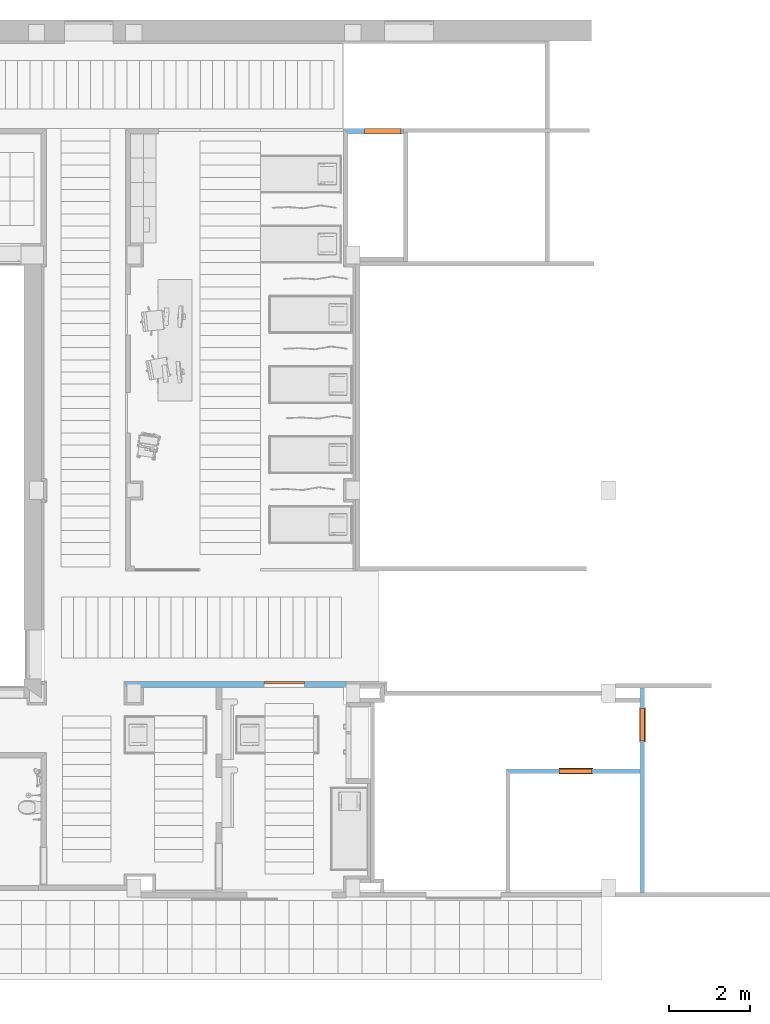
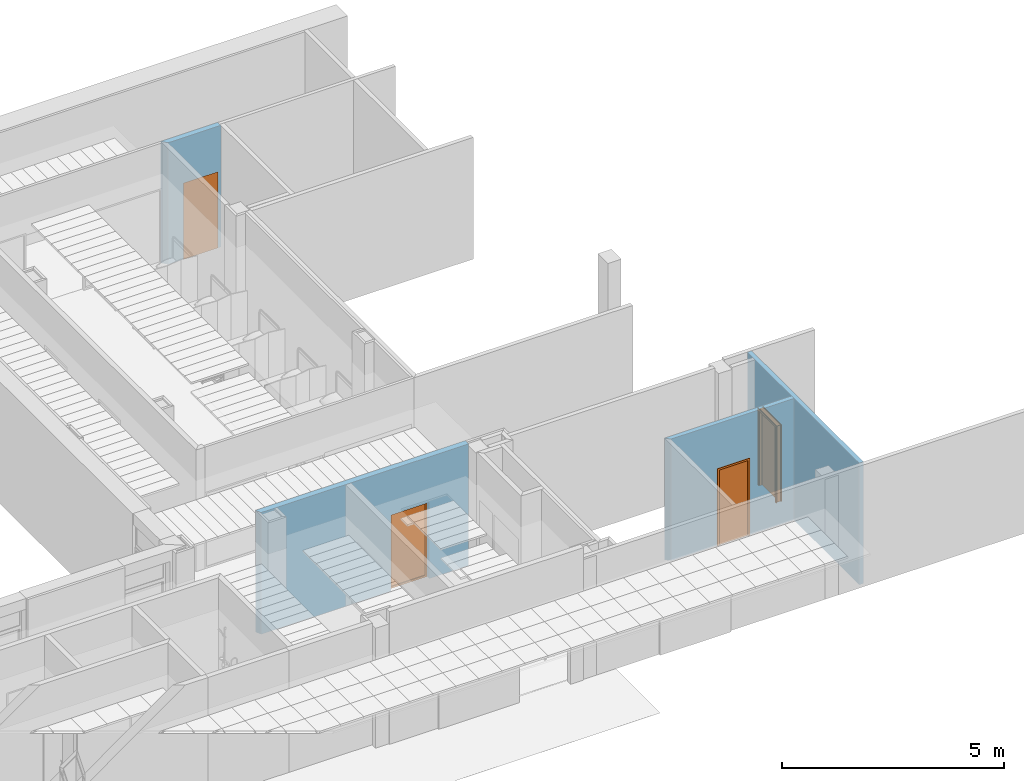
# One storey, part 59 of 68: 4 proxies, 4 openings, plus 4 elements that do not belong to this part.
"""IFC2X3 building model written with IfcOpenShell, lengths in millimetres."""

from ifc_helpers import new_model, entity, si_unit, converted_unit, derived_unit, money_unit, direction, frame, origin_with_axes, origin_2d_with_axis, place, context, subcontext, project, spatial, polyline, rectangle, outline, extrude, open_shell, faceted_brep, surface_model, material, layer, layer_set, layer_usage, type_object, element, fill, save


model = new_model("IFC2X3")

# Units and contexts
model_context = context("Model", 3, precision=0.01, world=origin_with_axes(), true_north=direction((0.0, 1.0)))
body_context = subcontext(model_context, "Body", "Model", "MODEL_VIEW")
ifc_project = project(units=[si_unit("LENGTHUNIT", "METRE", prefix="MILLI"), si_unit("AREAUNIT", "SQUARE_METRE"), si_unit("VOLUMEUNIT", "CUBIC_METRE"), converted_unit("PLANEANGLEUNIT", "DEGREE", entity("IfcPlaneAngleMeasure", 0.0174532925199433), si_unit("PLANEANGLEUNIT", "RADIAN"), dimensions=[0, 0, 0, 0, 0, 0, 0]), money_unit("USD"), converted_unit("TIMEUNIT", "Year", entity("IfcTimeMeasure", 31557600.0), si_unit("TIMEUNIT", "SECOND"), dimensions=[0, 0, 1, 0, 0, 0, 0]), si_unit("MASSUNIT", "GRAM", prefix="KILO"), si_unit("THERMODYNAMICTEMPERATUREUNIT", "DEGREE_CELSIUS"), si_unit("LUMINOUSINTENSITYUNIT", "LUMEN"), si_unit("ENERGYUNIT", "JOULE", prefix="MEGA"), derived_unit("THERMALCONDUCTANCEUNIT", [(si_unit("POWERUNIT", "WATT"), 1), (si_unit("LENGTHUNIT", "METRE"), -1), (si_unit("THERMODYNAMICTEMPERATUREUNIT", "KELVIN"), -1)]), derived_unit("SPECIFICHEATCAPACITYUNIT", [(si_unit("ENERGYUNIT", "JOULE"), 1), (si_unit("MASSUNIT", "GRAM", prefix="KILO"), -1), (si_unit("THERMODYNAMICTEMPERATUREUNIT", "KELVIN"), -1)]), derived_unit("MASSDENSITYUNIT", [(si_unit("MASSUNIT", "GRAM", prefix="KILO"), 1), (si_unit("VOLUMEUNIT", "CUBIC_METRE"), -1)])], contexts=[model_context])

# Site, building, storey
site_placement = place(None, origin_with_axes())
site = spatial("IfcSite", under=ifc_project, at=site_placement, Name="Sitio", CompositionType="ELEMENT")
building_placement = place(site_placement, origin_with_axes())
building = spatial("IfcBuilding", under=site, at=building_placement, Name="Construcción", CompositionType="ELEMENT")
storey_placement = place(building_placement, origin_with_axes())
storey = spatial("IfcBuildingStorey", under=building, at=storey_placement, Name="PLANTA 1ª", CompositionType="ELEMENT", Elevation=0.0)

# Wall, opening, proxy
ifc_material_1 = material(Name="Panel de Yeso Laminado")
ifc_layer_1 = layer(ifc_material_1, 13.0, ventilated="UNKNOWN")
ifc_layer_2 = layer(ifc_material_1, 13.0, ventilated="UNKNOWN")
ifc_material_2 = material(Name="ARQ_AI033_Aillament_Llana_De_Roca")
ifc_layer_3 = layer(ifc_material_2, 70.0, ventilated="UNKNOWN")
ifc_layer_4 = layer(ifc_material_1, 13.0, ventilated="UNKNOWN")
ifc_layer_5 = layer(ifc_material_1, 13.0, ventilated="UNKNOWN")
ifc_material_3 = material(Name="ARQ_EN271_Camara_Aire")
ifc_layer_6 = layer(ifc_material_3, 6.0, ventilated="UNKNOWN")
ifc_material_4 = material(Name="ARQ_FU093_Panellat_HPL")
ifc_layer_7 = layer(ifc_material_4, 6.0, ventilated="UNKNOWN")
ifc_layer_set_1 = layer_set([ifc_layer_1, ifc_layer_2, ifc_layer_3, ifc_layer_4, ifc_layer_5, ifc_layer_6, ifc_layer_7], Name="CR Pladur 70 HPL 1 cara")
ifc_layer_usage_1 = layer_usage(ifc_layer_set_1, "AXIS2", "POSITIVE", -134.0)
wall_type_1 = type_object("IfcWallType", Name="CR Pladur 70 HPL 1 cara 134", PredefinedType="NOTDEFINED")
wall_1_placement = place(storey_placement, frame((5763.890995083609, 1700.853055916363, 0.0), z_axis=(0.0, 0.0, 1.0), x_axis=(1.0, 0.0, 0.0)))
wall_1 = element("IfcWallStandardCase", 1, at=wall_1_placement, inside=storey, type_object=wall_type_1, material=ifc_layer_usage_1, Name="MS-212", context=body_context, shape_type="SweptSolid", body=[
    extrude(outline(polyline([(121.9999999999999, -133.9999999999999), (1490.000000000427, -133.9999999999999), (1490.000000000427, 0.0), (0.0, 0.0), (121.9999999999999, -133.9999999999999)])), origin_with_axes(), (0.0, 0.0, 1.0), 3350.0),
])
opening_1_placement = place(wall_1_placement, frame((973.4203323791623, 0.0, 0.0), z_axis=(0.0, 0.0, 1.0), x_axis=(1.0, 0.0, 0.0)))
opening_1 = element("IfcOpeningElement", 2, at=opening_1_placement, cuts=wall_1, Name="P-02", context=body_context, shape_type="SweptSolid", body=[
    extrude(rectangle(XDim=900.0000000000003, YDim=2100.0, at=origin_2d_with_axis()), frame((0.0, -133.9999999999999, 1050.0), z_axis=(0.0, -1.0, 0.0), x_axis=(1.0, 0.0, 0.0)), (0.0, 0.0, -1.0), 402.0),
])
building_element_proxy_type_1 = type_object("IfcBuildingElementProxyType", Name="Puerta Metal 27", PredefinedType="NOTDEFINED")
proxy_1_placement = place(opening_1_placement, frame((450.0000000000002, 0.0, 0.0), z_axis=(0.0, 0.0, 1.0), x_axis=(-1.0, 0.0, 0.0)))
proxy_1 = element("IfcBuildingElementProxy", 3, at=proxy_1_placement, inside=storey, type_object=building_element_proxy_type_1, Name="P-02", context=body_context, shape_type="Brep", body=[
    faceted_brep([(868.0000000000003, 93.99999999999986, 0.0), (868.0000000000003, 0.0, 0.0), (868.0000000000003, 0.0, 2068.0), (868.0000000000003, 93.99999999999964, 2068.0), (879.9999999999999, 93.99999999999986, 0.0), (879.9999999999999, 133.9999999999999, 0.0), (900.0000000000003, 133.9999999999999, 0.0), (900.0000000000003, 0.0, 0.0), (900.0000000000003, 0.0, 2068.0), (879.9999999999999, 93.99999999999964, 2068.0), (900.0000000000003, 133.9999999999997, 2068.0), (879.9999999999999, 133.9999999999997, 2068.0)], [[[0, 1, 2, 3]], [[4, 5, 6, 7, 1, 0]], [[1, 7, 8, 2]], [[9, 3, 2, 8, 10, 11]], [[9, 4, 0, 3]], [[11, 5, 4, 9]], [[11, 10, 6, 5]], [[6, 10, 8, 7]]]),
    faceted_brep([(20.00000000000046, 93.99999999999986, 2068.0), (20.00000000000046, 133.9999999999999, 2068.0), (0.0, 133.9999999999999, 2068.0), (0.0, 0.0, 2068.0), (32.00000000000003, 0.0, 2068.0), (32.00000000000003, 93.99999999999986, 2068.0), (20.00000000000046, 93.99999999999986, 0.0), (20.00000000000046, 133.9999999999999, 0.0), (0.0, 133.9999999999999, 0.0), (0.0, 0.0, 0.0), (32.00000000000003, 0.0, 0.0), (32.00000000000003, 93.99999999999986, 0.0)], [[[0, 1, 2, 3, 4, 5]], [[0, 6, 7, 1]], [[7, 8, 2, 1]], [[2, 8, 9, 3]], [[3, 9, 10, 4]], [[5, 4, 10, 11]], [[5, 11, 6, 0]], [[6, 11, 10, 9, 8, 7]]]),
    faceted_brep([(879.9999999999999, 133.9999999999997, 2080.0), (20.00000000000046, 133.9999999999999, 2080.0), (20.00000000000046, 133.9999999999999, 2068.0), (0.0, 133.9999999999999, 2068.0), (0.0, 133.9999999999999, 2100.0), (900.0000000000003, 133.9999999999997, 2100.0), (900.0000000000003, 133.9999999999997, 2068.0), (879.9999999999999, 133.9999999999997, 2068.0), (879.9999999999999, 93.99999999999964, 2080.0), (20.00000000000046, 93.99999999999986, 2080.0), (20.00000000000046, 93.99999999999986, 2068.0), (32.00000000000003, 93.99999999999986, 2068.0), (32.00000000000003, 0.0, 2068.0), (0.0, 0.0, 2068.0), (0.0, 0.0, 2100.0), (900.0000000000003, 0.0, 2100.0), (900.0000000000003, 0.0, 2068.0), (879.9999999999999, 93.99999999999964, 2068.0), (868.0000000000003, 0.0, 2068.0), (868.0000000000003, 93.99999999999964, 2068.0)], [[[0, 1, 2, 3, 4, 5, 6, 7]], [[0, 8, 9, 1]], [[1, 9, 10, 2]], [[10, 11, 12, 13, 3, 2]], [[4, 3, 13, 14]], [[5, 4, 14, 15]], [[6, 5, 15, 16]], [[17, 7, 6, 16, 18, 19]], [[7, 17, 8, 0]], [[10, 9, 8, 17, 19, 11]], [[19, 18, 12, 11]], [[12, 18, 16, 15, 14, 13]]]),
    faceted_brep([(20.00000000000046, 133.9999999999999, 0.0), (879.9999999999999, 133.9999999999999, 0.0), (879.9999999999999, 93.99999999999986, 0.0), (20.00000000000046, 93.99999999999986, 0.0), (20.00000000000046, 133.9999999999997, 2080.0), (879.9999999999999, 133.9999999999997, 2080.0), (879.9999999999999, 93.99999999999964, 2080.0), (20.00000000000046, 93.99999999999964, 2080.0)], [[[0, 1, 2, 3]], [[0, 4, 5, 1]], [[1, 5, 6, 2]], [[3, 2, 6, 7]], [[4, 0, 3, 7]], [[5, 4, 7, 6]]]),
])
fill(opening_1, proxy_1)

ifc_material_5 = material(Name="ARQ_AM246_Arrebossat_De_Guix")
ifc_layer_8 = layer(ifc_material_5, 10.0, ventilated="UNKNOWN")
ifc_material_6 = material(Name="ARQ_CE217_Gero")
ifc_layer_9 = layer(ifc_material_6, 90.0, ventilated="UNKNOWN")
ifc_layer_10 = layer(ifc_material_5, 10.0, ventilated="UNKNOWN")
ifc_layer_set_2 = layer_set([ifc_layer_8, ifc_layer_9, ifc_layer_10], Name="CR Enva Totxana")
ifc_layer_usage_2 = layer_usage(ifc_layer_set_2, "AXIS2", "POSITIVE", 0.0)
wall_type_2 = type_object("IfcWallType", Name="CR Enva Totxana 110", PredefinedType="NOTDEFINED")
wall_2_placement = place(storey_placement, frame((9768.890995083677, -14188.97582371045, 0.0), z_axis=(0.0, 0.0, 1.0), x_axis=(1.0, 0.0, 0.0)))
wall_2 = element("IfcWallStandardCase", 4, at=wall_2_placement, inside=storey, type_object=wall_type_2, material=ifc_layer_usage_2, Name="MS-206", context=body_context, shape_type="SweptSolid", body=[
    extrude(outline(polyline([(109.9999999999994, 0.0), (3309.999999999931, 0.0), (3309.999999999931, 109.9999999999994), (0.0, 109.9999999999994), (109.9999999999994, 0.0)])), origin_with_axes(), (0.0, 0.0, 1.0), 3350.0),
])
opening_2_placement = place(wall_2_placement, frame((1729.853695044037, 0.0, 0.0), z_axis=(0.0, 0.0, 1.0), x_axis=(1.0, 0.0, 0.0)))
opening_2 = element("IfcOpeningElement", 5, at=opening_2_placement, cuts=wall_2, Name="PF-10D", context=body_context, shape_type="SweptSolid", body=[
    extrude(rectangle(XDim=800.0000000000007, YDim=2100.0, at=origin_2d_with_axis()), frame((0.0, 109.9999999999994, 1050.0), z_axis=(0.0, -1.0, 0.0), x_axis=(-1.0, 0.0, 0.0)), (0.0, 0.0, 1.0), 329.9999999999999),
    extrude(rectangle(XDim=844.0000000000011, YDim=2122.0, at=origin_2d_with_axis()), frame((0.0, 110.0000000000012, 1061.0), z_axis=(0.0, -1.0, 0.0), x_axis=(-1.0, 0.0, 0.0)), (0.0, 0.0, -1.0), 110.0),
    extrude(rectangle(XDim=844.0000000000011, YDim=2122.0, at=origin_2d_with_axis()), frame((0.0, 0.0, 1061.0), z_axis=(0.0, 1.0, 0.0), x_axis=(-1.0, 0.0, 0.0)), (0.0, 0.0, -1.0), 110.0),
])
building_element_proxy_type_2 = type_object("IfcBuildingElementProxyType", Name="Puerta 27", PredefinedType="NOTDEFINED")
proxy_2_placement = place(opening_2_placement, frame((400.0000000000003, 0.0, 0.0), z_axis=(0.0, 0.0, 1.0), x_axis=(-1.0, 0.0, 0.0)))
proxy_2 = element("IfcBuildingElementProxy", 6, at=proxy_2_placement, inside=storey, type_object=building_element_proxy_type_2, Name="PF-10D", context=body_context, shape_type="Brep", body=[
    faceted_brep([(-22.00000000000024, -128.9999999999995, 0.0), (-22.00000000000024, -109.9999999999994, 0.0), (28.00000000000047, -109.9999999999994, 0.0), (28.00000000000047, -128.9999999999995, 0.0), (-22.00000000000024, -128.9999999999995, 2122.0), (-22.00000000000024, -109.9999999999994, 2122.0), (28.00000000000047, -109.9999999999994, 2072.0), (28.00000000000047, -128.9999999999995, 2072.0)], [[[0, 1, 2, 3]], [[4, 5, 1, 0]], [[1, 5, 6, 2]], [[3, 2, 6, 7]], [[0, 3, 7, 4]], [[7, 6, 5, 4]]]),
    faceted_brep([(822.0000000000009, -128.9999999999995, 2122.0), (822.0000000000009, -110.0000000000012, 2122.0), (772.0000000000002, -110.0000000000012, 2072.0), (772.0000000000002, -128.9999999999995, 2072.0), (822.0000000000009, -128.9999999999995, 0.0), (822.0000000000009, -109.9999999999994, 0.0), (772.0000000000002, -109.9999999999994, 0.0), (772.0000000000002, -128.9999999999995, 0.0)], [[[0, 1, 2, 3]], [[4, 5, 1, 0]], [[1, 5, 6, 2]], [[3, 2, 6, 7]], [[0, 3, 7, 4]], [[7, 6, 5, 4]]]),
    faceted_brep([(-22.00000000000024, -128.9999999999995, 2122.0), (-22.00000000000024, -109.9999999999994, 2122.0), (28.00000000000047, -109.9999999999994, 2072.0), (28.00000000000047, -128.9999999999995, 2072.0), (822.0000000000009, -128.9999999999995, 2122.0), (822.0000000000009, -110.0000000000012, 2122.0), (772.0000000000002, -110.0000000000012, 2072.0), (772.0000000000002, -128.9999999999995, 2072.0)], [[[0, 1, 2, 3]], [[4, 5, 1, 0]], [[1, 5, 6, 2]], [[3, 2, 6, 7]], [[0, 3, 7, 4]], [[7, 6, 5, 4]]]),
    faceted_brep([(-22.00000000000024, 19.00000000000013, 0.0), (28.00000000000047, 19.00000000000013, 0.0), (28.00000000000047, 0.0, 0.0), (-22.00000000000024, 0.0, 0.0), (-22.00000000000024, 19.00000000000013, 2122.0), (28.00000000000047, 19.00000000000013, 2072.0), (28.00000000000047, 0.0, 2072.0), (-22.00000000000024, 0.0, 2122.0)], [[[0, 1, 2, 3]], [[0, 4, 5, 1]], [[1, 5, 6, 2]], [[3, 2, 6, 7]], [[4, 0, 3, 7]], [[5, 4, 7, 6]]]),
    faceted_brep([(822.0000000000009, 19.00000000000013, 2122.0), (772.0000000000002, 19.00000000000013, 2072.0), (772.0000000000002, 0.0, 2072.0), (822.0000000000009, 0.0, 2122.0), (822.0000000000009, 19.00000000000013, 0.0), (772.0000000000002, 19.00000000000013, 0.0), (772.0000000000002, 0.0, 0.0), (822.0000000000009, 0.0, 0.0)], [[[0, 1, 2, 3]], [[0, 4, 5, 1]], [[1, 5, 6, 2]], [[3, 2, 6, 7]], [[4, 0, 3, 7]], [[5, 4, 7, 6]]]),
    faceted_brep([(-22.00000000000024, 19.00000000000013, 2122.0), (28.00000000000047, 19.00000000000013, 2072.0), (28.00000000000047, 0.0, 2072.0), (-22.00000000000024, 0.0, 2122.0), (822.0000000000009, 19.00000000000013, 2122.0), (772.0000000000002, 19.00000000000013, 2072.0), (772.0000000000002, 0.0, 2072.0), (822.0000000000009, 0.0, 2122.0)], [[[0, 1, 2, 3]], [[0, 4, 5, 1]], [[1, 5, 6, 2]], [[3, 2, 6, 7]], [[4, 0, 3, 7]], [[5, 4, 7, 6]]]),
    faceted_brep([(40.00000000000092, -39.99999999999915, 0.0), (40.00000000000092, -40.00000000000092, 2060.0), (40.00000000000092, -109.9999999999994, 2060.0), (40.00000000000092, -109.9999999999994, 0.0), (28.00000000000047, -40.00000000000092, 2060.0), (28.00000000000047, -39.99999999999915, 0.0), (28.00000000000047, 0.0, 2060.0), (0.0, 0.0, 2060.0), (0.0, -109.9999999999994, 2060.0), (0.0, -109.9999999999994, 0.0), (0.0, 0.0, 0.0), (28.00000000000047, 0.0, 0.0)], [[[0, 1, 2, 3]], [[4, 1, 0, 5]], [[4, 6, 7, 8, 2, 1]], [[3, 2, 8, 9]], [[5, 0, 3, 9, 10, 11]], [[6, 4, 5, 11]], [[6, 11, 10, 7]], [[10, 9, 8, 7]]]),
    faceted_brep([(772.0000000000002, -40.00000000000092, 2060.0), (759.9999999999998, -40.00000000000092, 2060.0), (759.9999999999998, -109.9999999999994, 2060.0), (800.0000000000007, -109.9999999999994, 2060.0), (800.0000000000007, 0.0, 2060.0), (772.0000000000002, 0.0, 2060.0), (772.0000000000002, -40.00000000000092, 0.0), (759.9999999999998, -40.00000000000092, 0.0), (759.9999999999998, -109.9999999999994, 0.0), (800.0000000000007, -109.9999999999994, 0.0), (800.0000000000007, 0.0, 0.0), (772.0000000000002, 0.0, 0.0)], [[[0, 1, 2, 3, 4, 5]], [[1, 0, 6, 7]], [[1, 7, 8, 2]], [[3, 2, 8, 9]], [[4, 3, 9, 10]], [[11, 5, 4, 10]], [[0, 5, 11, 6]], [[6, 11, 10, 9, 8, 7]]]),
    faceted_brep([(28.00000000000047, 0.0, 2072.0), (28.00000000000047, 0.0, 2060.0), (0.0, 0.0, 2060.0), (0.0, 0.0, 2100.0), (800.0000000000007, 0.0, 2100.0), (800.0000000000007, 0.0, 2060.0), (772.0000000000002, 0.0, 2060.0), (772.0000000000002, 0.0, 2072.0), (28.00000000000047, -40.00000000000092, 2072.0), (28.00000000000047, -40.00000000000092, 2060.0), (40.00000000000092, -40.00000000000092, 2060.0), (40.00000000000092, -109.9999999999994, 2060.0), (0.0, -109.9999999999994, 2060.0), (0.0, -109.9999999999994, 2100.0), (800.0000000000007, -109.9999999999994, 2100.0), (800.0000000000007, -109.9999999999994, 2060.0), (772.0000000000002, -40.00000000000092, 2060.0), (759.9999999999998, -109.9999999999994, 2060.0), (759.9999999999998, -40.00000000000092, 2060.0), (772.0000000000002, -40.00000000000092, 2072.0)], [[[0, 1, 2, 3, 4, 5, 6, 7]], [[1, 0, 8, 9]], [[9, 10, 11, 12, 2, 1]], [[2, 12, 13, 3]], [[3, 13, 14, 4]], [[4, 14, 15, 5]], [[16, 6, 5, 15, 17, 18]], [[7, 6, 16, 19]], [[0, 7, 19, 8]], [[16, 18, 10, 9, 8, 19]], [[10, 18, 17, 11]], [[17, 15, 14, 13, 12, 11]]]),
    faceted_brep([(772.0000000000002, 0.0, 0.0), (772.0000000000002, -40.00000000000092, 0.0), (28.00000000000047, -39.99999999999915, 0.0), (28.00000000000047, 0.0, 0.0), (772.0000000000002, 0.0, 2072.0), (772.0000000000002, -40.00000000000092, 2072.0), (28.00000000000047, -40.00000000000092, 2072.0), (28.00000000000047, 0.0, 2072.0)], [[[0, 1, 2, 3]], [[4, 5, 1, 0]], [[1, 5, 6, 2]], [[3, 2, 6, 7]], [[0, 3, 7, 4]], [[7, 6, 5, 4]]]),
])
fill(opening_2, proxy_2)

ifc_layer_usage_3 = layer_usage(ifc_layer_set_2, "AXIS2", "POSITIVE", 0.0)
wall_3_placement = place(storey_placement, frame((13078.89099508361, -12088.97582371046, 0.0), z_axis=(0.0, 0.0, 1.0), x_axis=(0.0, -1.0, 0.0)))
wall_3 = element("IfcWallStandardCase", 7, at=wall_3_placement, inside=storey, type_object=wall_type_2, material=ifc_layer_usage_3, Name="MS-207", context=body_context, shape_type="SweptSolid", body=[
    extrude(outline(polyline([(0.0, 0.0), (5039.999835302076, 0.0), (5039.999835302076, 109.9999999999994), (0.0, 109.9999999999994), (0.0, 0.0)])), origin_with_axes(), (0.0, 0.0, 1.0), 3350.0),
])
opening_3_placement = place(wall_3_placement, frame((904.6702932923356, 0.0, 0.0), z_axis=(0.0, 0.0, 1.0), x_axis=(1.0, 0.0, 0.0)))
opening_3 = element("IfcOpeningElement", 8, at=opening_3_placement, cuts=wall_3, Name="PF-09D", context=body_context, shape_type="SweptSolid", body=[
    extrude(rectangle(XDim=800.0000000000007, YDim=2100.0, at=origin_2d_with_axis()), frame((0.0, -109.9999999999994, 1050.0), z_axis=(0.0, -1.0, 0.0), x_axis=(-1.0, 0.0, 0.0)), (0.0, 0.0, -1.0), 329.9999999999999),
    extrude(rectangle(XDim=844.0000000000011, YDim=2122.0, at=origin_2d_with_axis()), frame((0.0, 0.0, 1061.0), z_axis=(0.0, -1.0, 0.0), x_axis=(-1.0, 0.0, 0.0)), (0.0, 0.0, 1.0), 110.0),
    extrude(rectangle(XDim=844.0000000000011, YDim=2122.0, at=origin_2d_with_axis()), frame((0.0, 109.9999999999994, 1061.0), z_axis=(0.0, 1.0, 0.0), x_axis=(-1.0, 0.0, 0.0)), (0.0, 0.0, 1.0), 110.0),
])
proxy_3_placement = place(opening_3_placement, frame((-400.0000000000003, 0.0, 0.0), z_axis=(0.0, 0.0, 1.0), x_axis=(1.0, 0.0, 0.0)))
proxy_3 = element("IfcBuildingElementProxy", 9, at=proxy_3_placement, inside=storey, type_object=building_element_proxy_type_2, Name="PF-09D", context=body_context, shape_type="Brep", body=[
    faceted_brep([(822.0000000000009, -19.00000000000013, 0.0), (772.0000000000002, -19.00000000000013, 0.0), (772.0000000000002, 0.0, 0.0), (822.0000000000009, 0.0, 0.0), (822.0000000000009, -19.00000000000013, 2122.0), (772.0000000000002, -19.00000000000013, 2072.0), (772.0000000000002, 0.0, 2072.0), (822.0000000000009, 0.0, 2122.0)], [[[0, 1, 2, 3]], [[0, 4, 5, 1]], [[1, 5, 6, 2]], [[3, 2, 6, 7]], [[4, 0, 3, 7]], [[5, 4, 7, 6]]]),
    faceted_brep([(-22.00000000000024, -19.00000000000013, 2122.0), (28.00000000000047, -19.00000000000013, 2072.0), (28.00000000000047, 0.0, 2072.0), (-22.00000000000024, 0.0, 2122.0), (-22.00000000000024, -19.00000000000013, 0.0), (28.00000000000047, -19.00000000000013, 0.0), (28.00000000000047, 0.0, 0.0), (-22.00000000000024, 0.0, 0.0)], [[[0, 1, 2, 3]], [[0, 4, 5, 1]], [[1, 5, 6, 2]], [[3, 2, 6, 7]], [[4, 0, 3, 7]], [[5, 4, 7, 6]]]),
    faceted_brep([(822.0000000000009, -19.00000000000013, 2122.0), (772.0000000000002, -19.00000000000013, 2072.0), (772.0000000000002, 0.0, 2072.0), (822.0000000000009, 0.0, 2122.0), (-22.00000000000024, -19.00000000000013, 2122.0), (28.00000000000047, -19.00000000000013, 2072.0), (28.00000000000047, 0.0, 2072.0), (-22.00000000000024, 0.0, 2122.0)], [[[0, 1, 2, 3]], [[0, 4, 5, 1]], [[1, 5, 6, 2]], [[3, 2, 6, 7]], [[4, 0, 3, 7]], [[5, 4, 7, 6]]]),
    faceted_brep([(822.0000000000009, 128.9999999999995, 0.0), (822.0000000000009, 109.9999999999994, 0.0), (772.0000000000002, 109.9999999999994, 0.0), (772.0000000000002, 128.9999999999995, 0.0), (822.0000000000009, 128.9999999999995, 2122.0), (822.0000000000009, 109.9999999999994, 2122.0), (772.0000000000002, 109.9999999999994, 2072.0), (772.0000000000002, 128.9999999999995, 2072.0)], [[[0, 1, 2, 3]], [[4, 5, 1, 0]], [[1, 5, 6, 2]], [[3, 2, 6, 7]], [[0, 3, 7, 4]], [[7, 6, 5, 4]]]),
    faceted_brep([(-22.00000000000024, 128.9999999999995, 2122.0), (-22.00000000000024, 109.9999999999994, 2122.0), (28.00000000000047, 109.9999999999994, 2072.0), (28.00000000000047, 128.9999999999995, 2072.0), (-22.00000000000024, 128.9999999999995, 0.0), (-22.00000000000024, 109.9999999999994, 0.0), (28.00000000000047, 109.9999999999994, 0.0), (28.00000000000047, 128.9999999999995, 0.0)], [[[0, 1, 2, 3]], [[4, 5, 1, 0]], [[1, 5, 6, 2]], [[3, 2, 6, 7]], [[0, 3, 7, 4]], [[7, 6, 5, 4]]]),
    faceted_brep([(822.0000000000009, 128.9999999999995, 2122.0), (822.0000000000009, 109.9999999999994, 2122.0), (772.0000000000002, 109.9999999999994, 2072.0), (772.0000000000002, 128.9999999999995, 2072.0), (-22.00000000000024, 128.9999999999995, 2122.0), (-22.00000000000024, 109.9999999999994, 2122.0), (28.00000000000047, 109.9999999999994, 2072.0), (28.00000000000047, 128.9999999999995, 2072.0)], [[[0, 1, 2, 3]], [[4, 5, 1, 0]], [[1, 5, 6, 2]], [[3, 2, 6, 7]], [[0, 3, 7, 4]], [[7, 6, 5, 4]]]),
    faceted_brep([(759.9999999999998, 69.99999999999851, 0.0), (759.9999999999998, 0.0, 0.0), (759.9999999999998, 0.0, 2060.0), (759.9999999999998, 70.00000000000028, 2060.0), (772.0000000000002, 69.99999999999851, 0.0), (772.0000000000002, 109.9999999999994, 0.0), (800.0000000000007, 109.9999999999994, 0.0), (800.0000000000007, 0.0, 0.0), (800.0000000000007, 0.0, 2060.0), (772.0000000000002, 70.00000000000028, 2060.0), (800.0000000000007, 109.9999999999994, 2060.0), (772.0000000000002, 109.9999999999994, 2060.0)], [[[0, 1, 2, 3]], [[4, 5, 6, 7, 1, 0]], [[1, 7, 8, 2]], [[9, 3, 2, 8, 10, 11]], [[9, 4, 0, 3]], [[11, 5, 4, 9]], [[11, 10, 6, 5]], [[6, 10, 8, 7]]]),
    faceted_brep([(28.00000000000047, 70.00000000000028, 2060.0), (28.00000000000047, 109.9999999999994, 2060.0), (0.0, 109.9999999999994, 2060.0), (0.0, 0.0, 2060.0), (40.00000000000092, 0.0, 2060.0), (40.00000000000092, 70.00000000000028, 2060.0), (28.00000000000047, 70.00000000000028, 0.0), (28.00000000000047, 109.9999999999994, 0.0), (0.0, 109.9999999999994, 0.0), (0.0, 0.0, 0.0), (40.00000000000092, 0.0, 0.0), (40.00000000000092, 70.00000000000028, 0.0)], [[[0, 1, 2, 3, 4, 5]], [[0, 6, 7, 1]], [[7, 8, 2, 1]], [[2, 8, 9, 3]], [[3, 9, 10, 4]], [[5, 4, 10, 11]], [[5, 11, 6, 0]], [[6, 11, 10, 9, 8, 7]]]),
    faceted_brep([(772.0000000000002, 109.9999999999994, 2072.0), (28.00000000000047, 109.9999999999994, 2072.0), (28.00000000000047, 109.9999999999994, 2060.0), (0.0, 109.9999999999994, 2060.0), (0.0, 109.9999999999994, 2100.0), (800.0000000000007, 109.9999999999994, 2100.0), (800.0000000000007, 109.9999999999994, 2060.0), (772.0000000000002, 109.9999999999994, 2060.0), (772.0000000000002, 70.00000000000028, 2072.0), (28.00000000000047, 70.00000000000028, 2072.0), (28.00000000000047, 70.00000000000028, 2060.0), (40.00000000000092, 70.00000000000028, 2060.0), (40.00000000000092, 0.0, 2060.0), (0.0, 0.0, 2060.0), (0.0, 0.0, 2100.0), (800.0000000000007, 0.0, 2100.0), (800.0000000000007, 0.0, 2060.0), (772.0000000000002, 70.00000000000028, 2060.0), (759.9999999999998, 0.0, 2060.0), (759.9999999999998, 70.00000000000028, 2060.0)], [[[0, 1, 2, 3, 4, 5, 6, 7]], [[0, 8, 9, 1]], [[1, 9, 10, 2]], [[10, 11, 12, 13, 3, 2]], [[4, 3, 13, 14]], [[5, 4, 14, 15]], [[6, 5, 15, 16]], [[17, 7, 6, 16, 18, 19]], [[7, 17, 8, 0]], [[10, 9, 8, 17, 19, 11]], [[19, 18, 12, 11]], [[12, 18, 16, 15, 14, 13]]]),
    faceted_brep([(28.00000000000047, 109.9999999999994, 0.0), (772.0000000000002, 109.9999999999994, 0.0), (772.0000000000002, 69.99999999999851, 0.0), (28.00000000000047, 70.00000000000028, 0.0), (28.00000000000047, 109.9999999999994, 2072.0), (772.0000000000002, 109.9999999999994, 2072.0), (772.0000000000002, 69.99999999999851, 2072.0), (28.00000000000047, 70.00000000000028, 2072.0)], [[[0, 1, 2, 3]], [[0, 4, 5, 1]], [[1, 5, 6, 2]], [[3, 2, 6, 7]], [[4, 0, 3, 7]], [[5, 4, 7, 6]]]),
])
fill(opening_3, proxy_3)

ifc_layer_11 = layer(ifc_material_4, 6.0, ventilated="UNKNOWN")
ifc_layer_12 = layer(ifc_material_3, 6.0, ventilated="UNKNOWN")
ifc_layer_13 = layer(ifc_material_1, 13.0, ventilated="UNKNOWN")
ifc_layer_14 = layer(ifc_material_1, 13.0, ventilated="UNKNOWN")
ifc_layer_15 = layer(ifc_material_2, 70.0, ventilated="UNKNOWN")
ifc_layer_16 = layer(ifc_material_1, 13.0, ventilated="UNKNOWN")
ifc_layer_17 = layer(ifc_material_1, 13.0, ventilated="UNKNOWN")
ifc_layer_18 = layer(ifc_material_3, 6.0, ventilated="UNKNOWN")
ifc_layer_19 = layer(ifc_material_4, 6.0, ventilated="UNKNOWN")
ifc_layer_set_3 = layer_set([ifc_layer_11, ifc_layer_12, ifc_layer_13, ifc_layer_14, ifc_layer_15, ifc_layer_16, ifc_layer_17, ifc_layer_18, ifc_layer_19], Name="CR Pladur 70 HPL 2 cares")
ifc_layer_usage_4 = layer_usage(ifc_layer_set_3, "AXIS2", "POSITIVE", -146.0)
wall_type_3 = type_object("IfcWallType", Name="CR Pladur 70 HPL 2 cares 146", PredefinedType="NOTDEFINED")
wall_4_placement = place(storey_placement, frame((5828.890995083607, -12069.97582371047, 0.0), z_axis=(0.0, 0.0, 1.0), x_axis=(-1.0, 0.0, 0.0)))
wall_4 = element("IfcWallStandardCase", 10, at=wall_4_placement, inside=storey, type_object=wall_type_3, material=ifc_layer_usage_4, Name="MS-225", context=body_context, shape_type="SweptSolid", body=[
    extrude(outline(polyline([(0.0, -146.0000000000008), (5464.999999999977, -146.0000000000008), (5399.999999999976, 0.0), (0.0, 0.0), (0.0, -146.0000000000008)])), origin_with_axes(), (0.0, 0.0, 1.0), 3350.0),
])
opening_4_placement = place(wall_4_placement, frame((1521.495129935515, 0.0, 0.0), z_axis=(0.0, 0.0, 1.0), x_axis=(1.0, 0.0, 0.0)))
opening_4 = element("IfcOpeningElement", 11, at=opening_4_placement, cuts=wall_4, Name="F-02", context=body_context, shape_type="SweptSolid", body=[
    extrude(rectangle(XDim=999.9999999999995, YDim=2100.0, at=origin_2d_with_axis()), frame((0.0, 146.0000000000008, 1050.0), z_axis=(0.0, -1.0, 0.0), x_axis=(-1.0, 0.0, 0.0)), (0.0, 0.0, 1.0), 438.0000000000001),
])
building_element_proxy_type_3 = type_object("IfcBuildingElementProxyType", Name="Ventana 27", PredefinedType="NOTDEFINED")
proxy_4_placement = place(opening_4_placement, frame((500.0, 0.0, 0.0), z_axis=(0.0, 0.0, 1.0), x_axis=(-1.0, 0.0, 0.0)))
proxy_4 = element("IfcBuildingElementProxy", 12, at=proxy_4_placement, inside=storey, type_object=building_element_proxy_type_3, Name="F-02", context=body_context, shape_type="SurfaceModel", body=[
    faceted_brep([(49.99999999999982, 96.00000000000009, 2050.0), (49.99999999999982, 146.0000000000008, 2050.0), (0.0, 146.0000000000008, 2050.0), (0.0, 96.00000000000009, 2050.0), (49.99999999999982, 96.00000000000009, 50.0), (49.99999999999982, 146.0000000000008, 50.00000000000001), (0.0, 146.0000000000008, 50.00000000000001), (0.0, 96.00000000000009, 50.0)], [[[0, 1, 2, 3]], [[4, 5, 1, 0]], [[1, 5, 6, 2]], [[3, 2, 6, 7]], [[0, 3, 7, 4]], [[7, 6, 5, 4]]]),
    faceted_brep([(950.0000000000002, 96.00000000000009, 50.0), (950.0000000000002, 146.0000000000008, 50.00000000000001), (1000.0, 146.0000000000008, 50.00000000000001), (1000.0, 96.00000000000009, 50.0), (950.0000000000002, 96.00000000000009, 2050.0), (950.0000000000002, 146.0000000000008, 2050.0), (1000.0, 146.0000000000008, 2050.0), (1000.0, 96.00000000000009, 2050.0)], [[[0, 1, 2, 3]], [[4, 5, 1, 0]], [[1, 5, 6, 2]], [[3, 2, 6, 7]], [[0, 3, 7, 4]], [[7, 6, 5, 4]]]),
    faceted_brep([(49.99999999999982, 96.00000000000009, 50.0), (49.99999999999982, 146.0000000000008, 50.00000000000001), (0.0, 146.0000000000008, 50.00000000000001), (0.0, 96.00000000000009, 50.0), (950.0000000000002, 96.00000000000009, 50.0), (950.0000000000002, 146.0000000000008, 50.00000000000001), (1000.0, 146.0000000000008, 50.00000000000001), (1000.0, 146.0000000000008, 0.0), (0.0, 146.0000000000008, 0.0), (0.0, 96.00000000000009, 0.0), (1000.0, 96.00000000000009, 0.0), (1000.0, 96.00000000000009, 50.0)], [[[0, 1, 2, 3]], [[4, 5, 1, 0]], [[1, 5, 6, 7, 8, 2]], [[3, 2, 8, 9]], [[0, 3, 9, 10, 11, 4]], [[11, 6, 5, 4]], [[10, 7, 6, 11]], [[9, 8, 7, 10]]]),
    faceted_brep([(950.0000000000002, 96.00000000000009, 2050.0), (950.0000000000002, 146.0000000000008, 2050.0), (1000.0, 146.0000000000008, 2050.0), (1000.0, 96.00000000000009, 2050.0), (49.99999999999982, 96.00000000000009, 2050.0), (49.99999999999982, 146.0000000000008, 2050.0), (0.0, 146.0000000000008, 2050.0), (0.0, 146.0000000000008, 2100.0), (1000.0, 146.0000000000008, 2100.0), (1000.0, 96.00000000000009, 2100.0), (0.0, 96.00000000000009, 2100.0), (0.0, 96.00000000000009, 2050.0)], [[[0, 1, 2, 3]], [[4, 5, 1, 0]], [[1, 5, 6, 7, 8, 2]], [[3, 2, 8, 9]], [[0, 3, 9, 10, 11, 4]], [[11, 6, 5, 4]], [[10, 7, 6, 11]], [[9, 8, 7, 10]]]),
    surface_model("IfcShellBasedSurfaceModel", [(49.99999999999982, 111.0000000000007, 49.99999999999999), (950.0000000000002, 111.0000000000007, 49.99999999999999), (950.0000000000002, 111.0000000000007, 2050.0), (49.99999999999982, 111.0000000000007, 2050.0)], [open_shell([[[0, 1, 2, 3]]])]),
    surface_model("IfcShellBasedSurfaceModel", [(49.99999999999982, 131.0000000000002, 49.99999999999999), (49.99999999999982, 131.0000000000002, 2050.0), (950.0000000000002, 131.0000000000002, 2050.0), (950.0000000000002, 131.0000000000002, 49.99999999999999)], [open_shell([[[0, 1, 2, 3]]])]),
])
fill(opening_4, proxy_4)

save(model, "model.ifc")
